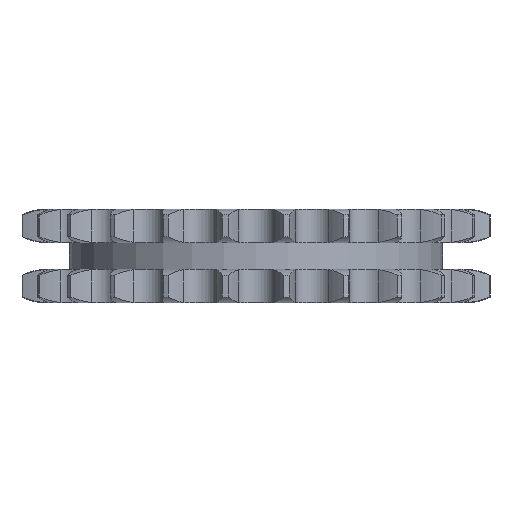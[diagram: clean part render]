
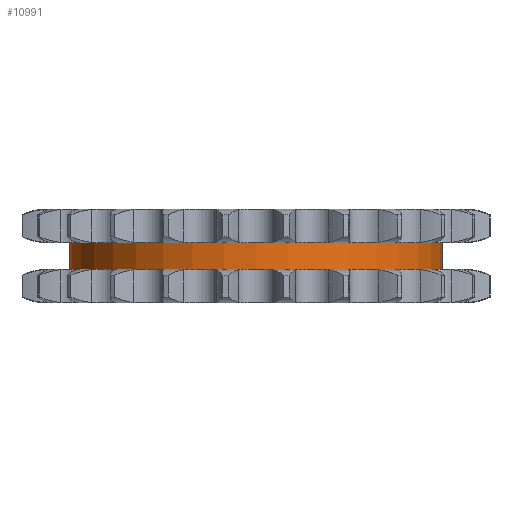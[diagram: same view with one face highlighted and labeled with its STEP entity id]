
A CAD part, left-side view. The second image highlights one B-rep face of the part: STEP entity #10991.
In plain terms, the highlighted cylindrical face has radius 50.812 mm (diameter 101.623 mm), a partial arc.
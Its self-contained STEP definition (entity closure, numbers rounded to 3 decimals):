
#1466=DIRECTION('',(0.,0.,-1.));
#1467=VECTOR('',#1466,7.3);
#1468=CARTESIAN_POINT('',(0.,50.812,3.65));
#1469=LINE('',#1468,#1467);
#1473=CARTESIAN_POINT('',(0.,0.,3.65));
#1474=DIRECTION('',(0.,0.,1.));
#1475=DIRECTION('',(0.,1.,0.));
#1476=AXIS2_PLACEMENT_3D('',#1473,#1474,#1475);
#1481=DIRECTION('',(0.,0.,-1.));
#1482=VECTOR('',#1481,7.3);
#1483=CARTESIAN_POINT('',(0.,-50.812,3.65));
#1484=LINE('',#1483,#1482);
#1488=CARTESIAN_POINT('',(0.,0.,-3.65));
#1489=DIRECTION('',(0.,0.,1.));
#1490=DIRECTION('',(0.,1.,0.));
#1491=AXIS2_PLACEMENT_3D('',#1488,#1489,#1490);
#8877=CARTESIAN_POINT('',(0.,50.812,3.65));
#8878=CARTESIAN_POINT('',(0.,50.812,-3.65));
#8879=VERTEX_POINT('',#8877);
#8880=VERTEX_POINT('',#8878);
#8881=CARTESIAN_POINT('',(0.,-50.812,3.65));
#8882=CARTESIAN_POINT('',(0.,-50.812,-3.65));
#8883=VERTEX_POINT('',#8881);
#8884=VERTEX_POINT('',#8882);
#10979=CARTESIAN_POINT('',(0.,0.,4.015));
#10980=DIRECTION('',(0.,0.,-1.));
#10981=DIRECTION('',(0.,-1.,0.));
#10982=AXIS2_PLACEMENT_3D('',#10979,#10980,#10981);
#10983=CYLINDRICAL_SURFACE('',#10982,50.812);
#10984=ORIENTED_EDGE('',*,*,#10969,.F.);
#10985=ORIENTED_EDGE('',*,*,#10959,.T.);
#10986=ORIENTED_EDGE('',*,*,#10973,.T.);
#10988=ORIENTED_EDGE('',*,*,#10987,.F.);
#10989=EDGE_LOOP('',(#10984,#10985,#10986,#10988));
#10990=FACE_OUTER_BOUND('',#10989,.F.);
#10991=ADVANCED_FACE('',(#10990),#10983,.T.);
#1477=CIRCLE('',#1476,50.812);
#1492=CIRCLE('',#1491,50.812);
#10959=EDGE_CURVE('',#8879,#8883,#1477,.T.);
#10969=EDGE_CURVE('',#8879,#8880,#1469,.T.);
#10973=EDGE_CURVE('',#8883,#8884,#1484,.T.);
#10987=EDGE_CURVE('',#8880,#8884,#1492,.T.);
